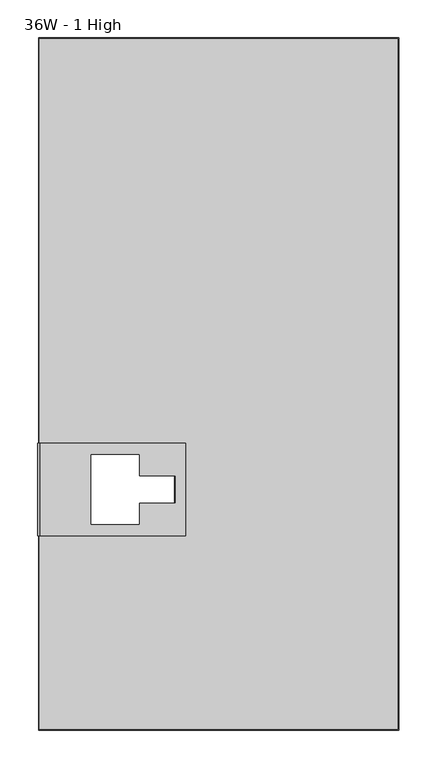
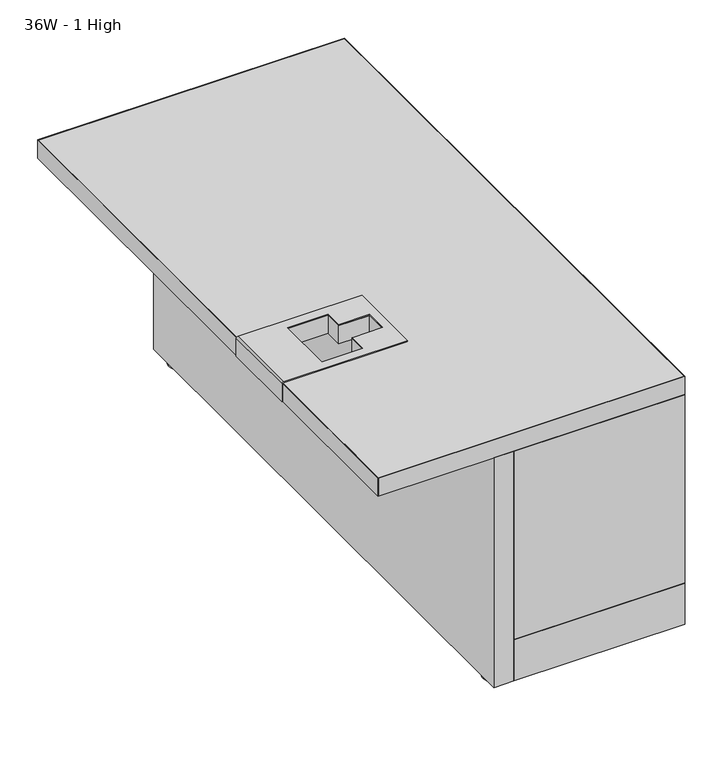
"""IFC4 building model written with IfcOpenShell, lengths in millimetres: furniture geometry, Steelcase - Migration SE - Storage - Universal - Open : 36W - 1 High."""

from ifc_helpers import new_model, si_unit, point, frame, frame_2d, origin, place, context, project, spatial, polyline, circle_curve, trimmed, segment, composite_curve, outline, extrude, source, transform, mapped, element, save
from ifc_brep_helpers import plane_surface, cylinder_surface, advanced_brep


def furniture_36w_1_high_a5aa46c4(model_context):
    return source(origin(), model_context, "Body", "SolidModel", [
        extrude(outline(polyline([(4458.9108331, 0.9116042), (4458.9108331, -911.5040208), (3984.6690206, -911.5040208), (3984.6690206, 0.9116042), (4458.9108331, 0.9116042)]), holes=[polyline([(4116.4079662, -548.5399873), (4053.2795614, -548.5399873), (4053.2795614, -640.8857623), (4116.4079662, -640.8857623), (4116.4079662, -612.2304323), (4164.2688049, -612.2304323), (4164.2688049, -577.1262093), (4116.4079662, -577.1262093), (4116.4079662, -548.5399873)])]), frame((0.0, 0.0, 381.1549518), z_axis=(0.0, 0.0, 1.0), x_axis=(1.0, 0.0, 0.0)), (0.0, 0.0, 1.0), 29.6900482),
        advanced_brep(
        [(3983.6768331, -533.2999873, 381.1549518), (3982.6354238, -533.2999873, 381.1549518), (3982.6354238, -533.2999873, 410.11563), (3985.1754238, -533.2999873, 412.65563), (4177.8231222, -533.2999873, 412.65563), (4177.8231222, -533.2999873, 410.845), (3983.6768331, -533.2999873, 410.845), (3983.6768331, -656.0078371, 381.1549518), (3983.6768331, -656.0078371, 410.845), (4177.8231222, -656.0078371, 410.845), (4177.8231222, -656.0078371, 412.65563), (3985.1754238, -656.0078371, 412.65563), (3982.6354238, -656.0078371, 410.11563), (3982.6354238, -656.0078371, 381.1549518), (4053.2795614, -548.5399873, 412.65563), (4116.4079662, -548.5399873, 412.65563), (4116.4079662, -577.1262093, 412.65563), (4164.2688049, -577.1262093, 412.65563), (4164.2688049, -612.2304323, 412.65563), (4116.4079662, -612.2304323, 412.65563), (4116.4079662, -640.8857623, 412.65563), (4053.2795614, -640.8857623, 412.65563), (4116.4079662, -548.5399873, 410.845), (4053.2795614, -548.5399873, 410.845), (4053.2795614, -640.8857623, 410.845), (4116.4079662, -640.8857623, 410.845), (4116.4079662, -612.2304323, 410.845), (4164.2688049, -612.2304323, 410.845), (4164.2688049, -577.1262093, 410.845), (4116.4079662, -577.1262093, 410.845)],
        [
            (0, 1),
            (1, 2),
            (2, 3, circle_curve(frame((3985.1754238, -533.2999873, 410.11563), z_axis=(0.0, 1.0, 0.0), x_axis=(-1.0, 0.0, 0.0)), 2.54)),
            (3, 4),
            (4, 5),
            (5, 6),
            (6, 0),
            (7, 8),
            (8, 9),
            (9, 10),
            (10, 11),
            (11, 12, circle_curve(frame((3985.1754238, -656.0078371, 410.11563), z_axis=(0.0, -1.0, 0.0), x_axis=(-1.0, 0.0, 0.0)), 2.54)),
            (12, 13),
            (13, 7),
            (0, 7),
            (13, 1),
            (12, 2),
            (11, 3),
            (10, 4),
            (14, 15),
            (15, 16),
            (16, 17),
            (17, 18),
            (18, 19),
            (19, 20),
            (20, 21),
            (21, 14),
            (9, 5),
            (8, 6),
            (22, 23),
            (23, 24),
            (24, 25),
            (25, 26),
            (26, 27),
            (27, 28),
            (28, 29),
            (29, 22),
            (22, 15),
            (14, 23),
            (21, 24),
            (20, 25),
            (19, 26),
            (18, 27),
            (17, 28),
            (16, 29),
        ],
        [
            plane_surface(frame((3983.6768331, -533.2999873, 381.1549518), z_axis=(0.0, 1.0, 0.0), x_axis=(-1.0, 0.0, 0.0))),
            plane_surface(frame((3983.6768331, -656.0078371, 381.1549518), z_axis=(0.0, -1.0, 0.0), x_axis=(1.0, 0.0, 0.0))),
            plane_surface(frame((3983.6768331, -533.2999873, 381.1549518), z_axis=(0.0, 0.0, -1.0), x_axis=(0.0, -1.0, 0.0))),
            plane_surface(frame((3982.6354238, -533.2999873, 381.1549518), z_axis=(-1.0, 0.0, 0.0), x_axis=(0.0, -1.0, 0.0))),
            cylinder_surface(frame((3985.1754238, -656.0078371, 410.11563), z_axis=(0.0, 1.0, 0.0), x_axis=(-1.0, 0.0, 0.0)), 2.54),
            plane_surface(frame((3985.1754238, -533.2999873, 412.65563), z_axis=(0.0, 0.0, 1.0), x_axis=(0.0, -1.0, 0.0))),
            plane_surface(frame((4177.8231222, -533.2999873, 412.65563), z_axis=(1.0, 0.0, 0.0), x_axis=(0.0, -1.0, 0.0))),
            plane_surface(frame((4177.8231222, -533.2999873, 410.845), z_axis=(0.0, 0.0, -1.0), x_axis=(0.0, -1.0, 0.0))),
            plane_surface(frame((3983.6768331, -533.2999873, 410.845), z_axis=(1.0, 0.0, 0.0), x_axis=(0.0, -1.0, 0.0))),
            plane_surface(frame((4116.4079662, -548.5399873, 648.7380152), z_axis=(0.0, -1.0, 0.0), x_axis=(0.0, 0.0, -1.0))),
            plane_surface(frame((4053.2795614, -548.5399873, 648.7380152), z_axis=(1.0, 0.0, 0.0), x_axis=(0.0, 0.0, -1.0))),
            plane_surface(frame((4053.2795614, -640.8857623, 648.7380152), z_axis=(0.0, 1.0, 0.0), x_axis=(0.0, 0.0, -1.0))),
            plane_surface(frame((4116.4079662, -640.8857623, 648.7380152), z_axis=(-1.0, 0.0, 0.0), x_axis=(0.0, 0.0, -1.0))),
            plane_surface(frame((4116.4079662, -612.2304323, 648.7380152), z_axis=(0.0, 1.0, 0.0), x_axis=(0.0, 0.0, -1.0))),
            plane_surface(frame((4164.2688049, -612.2304323, 648.7380152), z_axis=(-1.0, 0.0, 0.0), x_axis=(0.0, 0.0, -1.0))),
            plane_surface(frame((4164.2688049, -577.1262093, 648.7380152), z_axis=(0.0, -1.0, 0.0), x_axis=(0.0, 0.0, -1.0))),
            plane_surface(frame((4116.4079662, -577.1262093, 648.7380152), z_axis=(-1.0, 0.0, 0.0), x_axis=(0.0, 0.0, -1.0))),
        ],
        [
            (0, [[1, 2, 3, 4, 5, 6, 7]]),
            (1, [[8, 9, 10, 11, 12, 13, 14]]),
            (2, [[-1, 15, -14, 16]]),
            (3, [[-2, -16, -13, 17]]),
            (4, [[-3, -17, -12, 18]]),
            (5, [[-4, -18, -11, 19], [20, 21, 22, 23, 24, 25, 26, 27]]),
            (6, [[-5, -19, -10, 28]]),
            (7, [[-6, -28, -9, 29], [30, 31, 32, 33, 34, 35, 36, 37]]),
            (8, [[-7, -29, -8, -15]]),
            (9, [[38, -20, 39, -30]]),
            (10, [[-39, -27, 40, -31]]),
            (11, [[-40, -26, 41, -32]]),
            (12, [[-41, -25, 42, -33]]),
            (13, [[-42, -24, 43, -34]]),
            (14, [[-43, -23, 44, -35]]),
            (15, [[-44, -22, 45, -36]]),
            (16, [[-38, -37, -45, -21]]),
        ],
    ),
        extrude(outline(composite_curve([segment(trimmed(circle_curve(frame_2d((4185.6462881, -33.1991024)), 19.05), [point((4166.5962881, -33.1991024))], [point((4204.6962881, -33.1991024))], False, "CARTESIAN"), True, "CONTINUOUS"), segment(trimmed(circle_curve(frame_2d((4185.6462881, -33.1991024)), 19.05), [point((4204.6962881, -33.1991024))], [point((4166.5962881, -33.1991024))], False, "CARTESIAN"), True, "CONTINUOUS")], self_intersect=False)), frame((0.0, 0.0, -3.175), z_axis=(0.0, 0.0, 1.0), x_axis=(1.0, 0.0, 0.0)), (0.0, 0.0, 1.0), 4.2238198),
        extrude(outline(composite_curve([segment(trimmed(circle_curve(frame_2d((4439.8051931, -32.993083)), 19.05), [point((4420.7551931, -32.993083))], [point((4458.8551931, -32.993083))], False, "CARTESIAN"), True, "CONTINUOUS"), segment(trimmed(circle_curve(frame_2d((4439.8051931, -32.993083)), 19.05), [point((4458.8551931, -32.993083))], [point((4420.7551931, -32.993083))], False, "CARTESIAN"), True, "CONTINUOUS")], self_intersect=False)), frame((0.0, 0.0, -3.175), z_axis=(0.0, 0.0, 1.0), x_axis=(1.0, 0.0, 0.0)), (0.0, 0.0, 1.0), 4.2238198),
        extrude(outline(composite_curve([segment(trimmed(circle_curve(frame_2d((4440.3470205, -877.6100867)), 19.05), [point((4421.2970205, -877.6100867))], [point((4459.3970205, -877.6100867))], False, "CARTESIAN"), True, "CONTINUOUS"), segment(trimmed(circle_curve(frame_2d((4440.3470205, -877.6100867)), 19.05), [point((4459.3970205, -877.6100867))], [point((4421.2970205, -877.6100867))], False, "CARTESIAN"), True, "CONTINUOUS")], self_intersect=False)), frame((0.0, 0.0, -3.175), z_axis=(0.0, 0.0, 1.0), x_axis=(1.0, 0.0, 0.0)), (0.0, 0.0, 1.0), 4.2238198),
        extrude(outline(composite_curve([segment(trimmed(circle_curve(frame_2d((4186.1881155, -877.8161788)), 19.05), [point((4167.1381155, -877.8161788))], [point((4205.2381155, -877.8161788))], False, "CARTESIAN"), True, "CONTINUOUS"), segment(trimmed(circle_curve(frame_2d((4186.1881155, -877.8161788)), 19.05), [point((4205.2381155, -877.8161788))], [point((4167.1381155, -877.8161788))], False, "CARTESIAN"), True, "CONTINUOUS")], self_intersect=False)), frame((0.0, 0.0, -3.175), z_axis=(0.0, 0.0, 1.0), x_axis=(1.0, 0.0, 0.0)), (0.0, 0.0, 1.0), 4.2238198),
        extrude(outline(polyline([(4194.3243365, 1.9276042), (4194.3243365, -912.4723958), (4163.4115987, -912.4723958), (4163.4115987, 1.9276042), (4194.3243365, 1.9276042)])), frame((0.0, 0.0, 4.4139297), z_axis=(0.0, 0.0, 1.0), x_axis=(1.0, 0.0, 0.0)), (0.0, 0.0, 1.0), 376.741022),
        extrude(outline(polyline([(4194.3243365, 1.9276042), (4459.9268331, 1.9276042), (4459.9268331, -912.4723958), (4194.3243365, -912.4723958), (4194.3243365, 1.9276042)])), frame((0.0, 0.0, 4.4139297), z_axis=(0.0, 0.0, 1.0), x_axis=(1.0, 0.0, 0.0)), (0.0, 0.0, 1.0), 67.5949895),
        extrude(outline(polyline([(4194.3243365, -912.4723958), (4194.3243365, -893.5019518), (4459.9268331, -893.5019518), (4459.9268331, -912.4723958), (4194.3243365, -912.4723958)])), frame((0.0, 0.0, 72.0089192), z_axis=(0.0, 0.0, 1.0), x_axis=(1.0, 0.0, 0.0)), (0.0, 0.0, 1.0), 309.1460326),
        extrude(outline(polyline([(4194.3243365, 1.9276042), (4459.9268331, 1.9276042), (4459.9268331, -17.1421639), (4194.3243365, -17.1421639), (4194.3243365, 1.9276042)])), frame((0.0, 0.0, 72.0089192), z_axis=(0.0, 0.0, 1.0), x_axis=(1.0, 0.0, 0.0)), (0.0, 0.0, 1.0), 309.1460326),
        extrude(outline(polyline([(4459.9268331, 1.9276042), (4459.9268331, -912.4723958), (3983.6768331, -912.4723958), (3983.6768331, -643.320927), (3983.6768331, 1.9276042), (4459.9268331, 1.9276042)]), holes=[polyline([(3984.6690206, -911.5040208), (4458.9108331, -911.5040208), (4458.9108331, 0.9116042), (3984.6690206, 0.9116042), (3984.6690206, -645.4800122), (3984.6690206, -911.5040208)])]), frame((0.0, 0.0, 381.1549518), z_axis=(0.0, 0.0, 1.0), x_axis=(1.0, 0.0, 0.0)), (0.0, 0.0, 1.0), 29.6900482),
    ])


if __name__ == "__main__":
    model = new_model("IFC4")
    model_context = context("Model", 3, world=origin())
    ifc_project = project(units=[si_unit("LENGTHUNIT", "METRE", prefix="MILLI")], contexts=[model_context])
    site = spatial("IfcSite", under=ifc_project)
    building = spatial("IfcBuilding", under=site)
    placement = place(None, origin())
    furniture_36w_1_high_shape = furniture_36w_1_high_a5aa46c4(model_context)
    element("IfcFurniture", 1, ObjectType="Steelcase - Migration SE - Storage - Universal - Open : 36W - 1 High", at=placement, inside=building, context=model_context, shape_type="MappedRepresentation", body=[
        mapped(furniture_36w_1_high_shape, transform((0.0, 0.0, 0.0), x_axis=(1.0, 0.0, 0.0), y_axis=(0.0, 1.0, 0.0), z_axis=(0.0, 0.0, 1.0))),
    ])
    save(model, "model.ifc")
